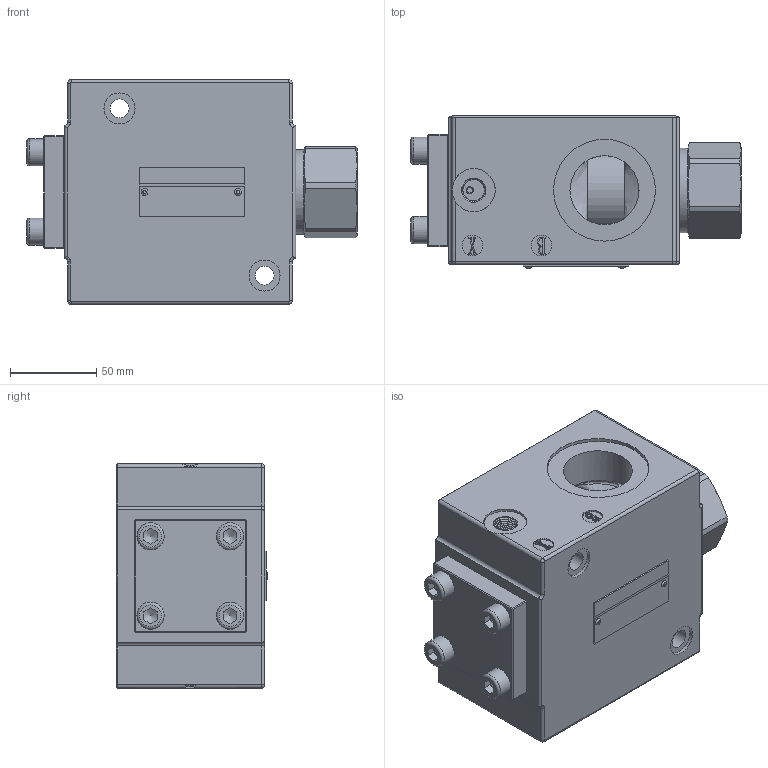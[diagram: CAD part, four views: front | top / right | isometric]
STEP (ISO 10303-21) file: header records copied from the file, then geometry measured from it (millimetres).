
FILE_DESCRIPTION(/* description */ (''),/* implementation_level */ '2;1');
FILE_NAME(/* name */ 'SL25G-1(2)-4XJ液控单向阀（管式）.prt.stp',/* time_stamp */ '2022-03-30T19:18:50+08:00',/* author */ (''),/* organization */ (''),/* preprocessor_version */ 'ST-DEVELOPER v16.7',/* originating_system */ 'SIEMENS PLM Software NX 12.0',/* authorisation */ '');
FILE_SCHEMA (('AUTOMOTIVE_DESIGN { 1 0 10303 214 3 1 1 1 }'));
Products named in the file (1): SL25G-1(2)-4XJ液控单向阀（管式）
Bounding box: 191.24 x 88 x 130 mm (x, y, z)
Volume: 1495568.9 mm3; surface area: 156825.4 mm2
Topology: 10 solids, 10 shells, 685 faces, 1794 edges, 1155 vertices
Faces by surface type: plane 417, cylinder 157, bspline 48, cone 46, torus 15, extrusion 2
Full cylindrical faces by diameter (mm): 1.8 x6, 3.4 x8, 8.5 x44, 10.8 x4, 11 x2, 12 x4, 12.5 x8, 15.73 x4, 17 x1, 18 x2, 25 x2, 40 x2, 44.8 x2, 46 x1, 48.4 x1, 49 x2, 59 x2
Entity records: 59818 total; most frequent: CARTESIAN_POINT 43361, ORIENTED_EDGE 2996, DIRECTION 2635, EDGE_CURVE 1498, VERTEX_POINT 1011, VECTOR 987, LINE 985, AXIS2_PLACEMENT_3D 824
